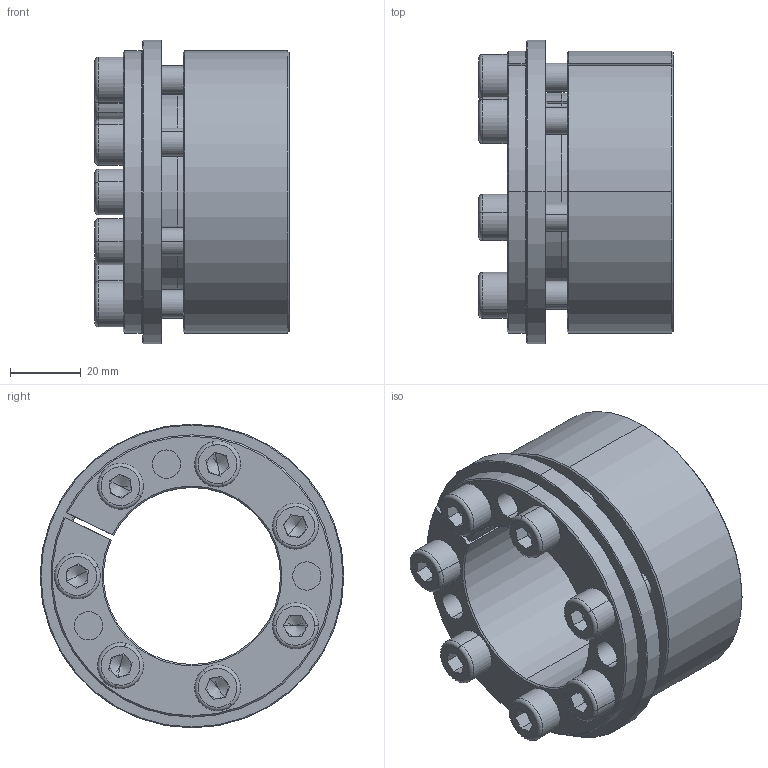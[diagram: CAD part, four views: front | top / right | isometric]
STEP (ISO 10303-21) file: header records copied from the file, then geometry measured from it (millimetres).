
FILE_DESCRIPTION (( 'STEP AP214' ), '1' );
FILE_NAME ('H5×°ÅäÌå50-80.STEP', '2022-07-26T02:21:20', ( '' ), ( '' ), 'SwSTEP 2.0', 'SolidWorks 2022', '' );
FILE_SCHEMA (( 'AUTOMOTIVE_DESIGN' ));
Length unit declared in the file: millimetre
Products named in the file (1): H5蚾饜极50-80
Bounding box: 55 x 86 x 86 mm (x, y, z)
Volume: 130679.4 mm3; surface area: 45979.5 mm2
Topology: 1 solids, 1 shells, 282 faces, 703 edges, 430 vertices
Faces by surface type: plane 115, cylinder 81, cone 72, torus 14
Entity records: 8428 total; most frequent: DIRECTION 1568, CARTESIAN_POINT 1474, ORIENTED_EDGE 1378, EDGE_CURVE 689, AXIS2_PLACEMENT_3D 620, VERTEX_POINT 430, CIRCLE 337, LINE 328
